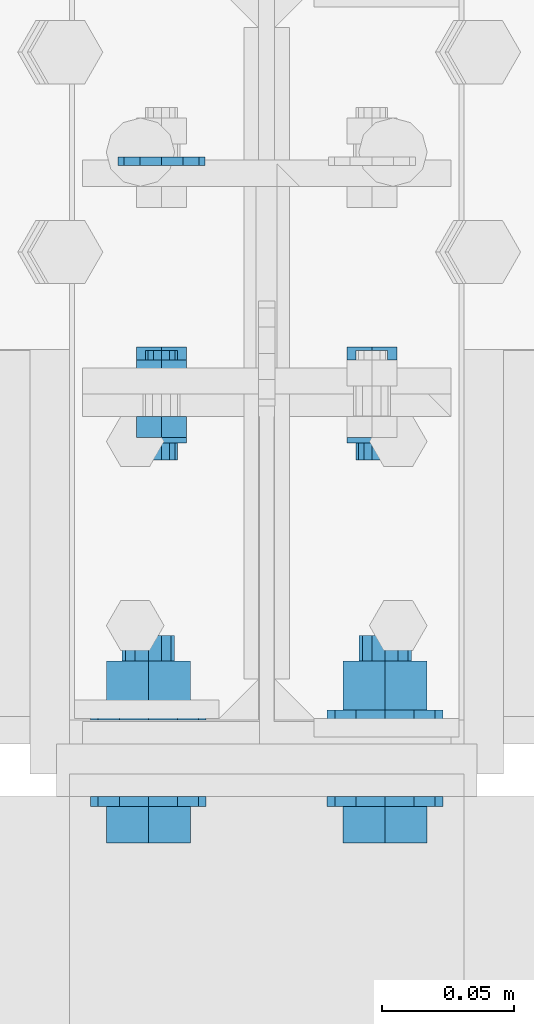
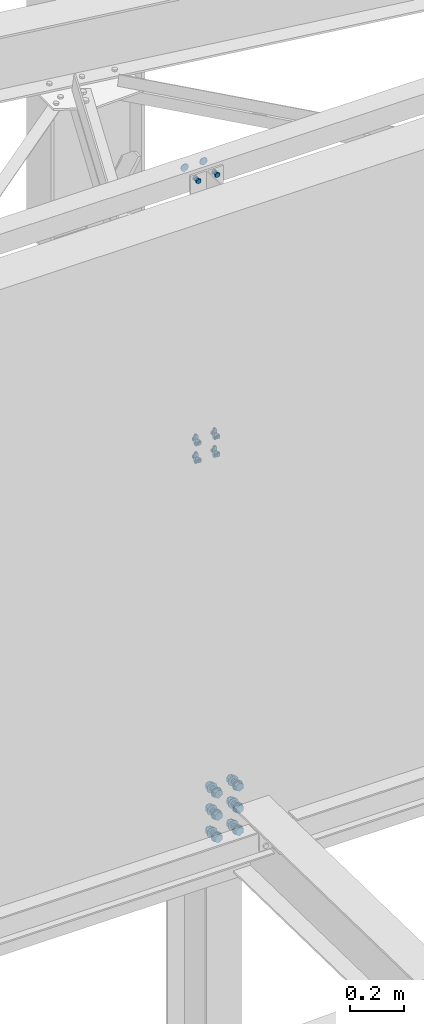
# One storey, part 27 of 3134: 4 mechanical fasteners, 3 elements without a shape of their own.
"""IFC2X3 building model written with IfcOpenShell, lengths in millimetres."""

import ifcopenshell
import ifcopenshell.guid

model = None  # the IFC model being written
_history = None  # IfcOwnerHistory: only IFC2X3 demands one
_inside = {}  # id of a spatial element -> (the spatial element, [elements in it])
_under = {}  # id of a project, library or spatial element -> (it, [spatial elements below it])
_declared = {}  # id of a project -> (the project, [libraries it declares])
_typed = {}  # id of a type object -> (the type object, [elements of that type])
_made_of = {}  # id of a material, layer set ... -> (it, [elements and type objects made of it])


def new_model(schema):
    """Start an empty IFC model of exactly this schema.

    Asked for "IFC4X3", IfcOpenShell would pick the latest addendum, in which some entities
    have other attributes; the version numbers below select the first issue.
    IFC2X3 requires an IfcOwnerHistory on every rooted entity: one is made here for all.
    """
    global model, _history
    if schema == "IFC4X3":
        model = ifcopenshell.file(schema_version=(4, 3, 0, 0))
    else:
        model = ifcopenshell.file(schema=schema)
    _inside.clear()
    _under.clear()
    _declared.clear()
    _typed.clear()
    _made_of.clear()
    _history = None
    if model.schema == "IFC2X3":
        org = make("IfcOrganization", Name="unknown")
        user = make(
            "IfcPersonAndOrganization",
            ThePerson=make("IfcPerson", FamilyName="unknown"),
            TheOrganization=org,
        )
        app = make(
            "IfcApplication",
            ApplicationDeveloper=org,
            Version="unknown",
            ApplicationFullName="unknown",
            ApplicationIdentifier="unknown",
        )
        _history = make(
            "IfcOwnerHistory",
            OwningUser=user,
            OwningApplication=app,
            ChangeAction="ADDED",
            CreationDate=0,
        )
    return model


def make(cls, **values):
    """One entity of the class cls with the attributes given. An attribute that is None is left unset."""
    return model.create_entity(
        cls, **{name: value for name, value in values.items() if value is not None}
    )


def rooted(cls, **values):
    """An entity with a GlobalId (a new one), such as an element, a storey or a relation."""
    return make(cls, GlobalId=ifcopenshell.guid.new(), OwnerHistory=_history, **values)


def si_unit(unit_type, name, prefix=None):
    """IfcSIUnit, for example si_unit("LENGTHUNIT", "METRE", prefix="MILLI")."""
    return make("IfcSIUnit", UnitType=unit_type, Prefix=prefix, Name=name)


def assignment(units):
    """IfcUnitAssignment: the units of a project."""
    return None if units is None else make("IfcUnitAssignment", Units=units)


def point(xyz):
    """IfcCartesianPoint."""
    return None if xyz is None else make("IfcCartesianPoint", Coordinates=xyz)


def direction(xyz):
    """IfcDirection."""
    return None if xyz is None else make("IfcDirection", DirectionRatios=xyz)


def frame(location, z_axis=None, x_axis=None):
    """IfcAxis2Placement3D, a coordinate frame: its origin and axes. An axis left out is left unset."""
    return make(
        "IfcAxis2Placement3D",
        Location=point(location),
        Axis=direction(z_axis),
        RefDirection=direction(x_axis),
    )


def origin_with_axes():
    """The frame at (0, 0, 0) with the z axis (0, 0, 1) and the x axis (1, 0, 0) written out."""
    return frame((0.0, 0.0, 0.0), z_axis=(0.0, 0.0, 1.0), x_axis=(1.0, 0.0, 0.0))


def place(relative_to, where):
    """IfcLocalPlacement: puts the frame where relative to a parent placement (None: the world)."""
    return make(
        "IfcLocalPlacement", PlacementRelTo=relative_to, RelativePlacement=where
    )


def context(
    kind, dimensions, precision=None, world=None, true_north=None, identifier=None
):
    """IfcGeometricRepresentationContext, for example the 3D "Model" context."""
    return make(
        "IfcGeometricRepresentationContext",
        ContextIdentifier=identifier,
        ContextType=kind,
        CoordinateSpaceDimension=dimensions,
        Precision=precision,
        WorldCoordinateSystem=world,
        TrueNorth=true_north,
    )


def subcontext(parent, identifier, kind, view, scale=None):
    """IfcGeometricRepresentationSubContext, for example "Body" below "Model"."""
    return make(
        "IfcGeometricRepresentationSubContext",
        ContextIdentifier=identifier,
        ContextType=kind,
        ParentContext=parent,
        TargetScale=scale,
        TargetView=view,
    )


def project(units=None, contexts=None):
    """IfcProject with its units and contexts."""
    return rooted(
        "IfcProject",
        Name="project",
        RepresentationContexts=contexts,
        UnitsInContext=assignment(units),
    )


def spatial(cls, under=None, at=None, **own):
    """A site, building, storey or space (cls), placed at a placement, below another one or the project."""
    s = rooted(cls, ObjectPlacement=at, **own)
    if under is not None:
        _under.setdefault(under.id(), (under, []))[1].append(s)
    return s


def faces_of(points, faces, orient=None, outer=None):
    """IfcFace entities. A face is a list of loops; a loop is a list of indices into points, from 0.

    orient and outer hold one flag for each loop. By default every Orientation is true, the
    first loop of a face is its IfcFaceOuterBound and the others are IfcFaceBound.
    """
    made = []
    for i, loops in enumerate(faces):
        bounds = []
        for j, loop in enumerate(loops):
            is_outer = j == 0 if outer is None else outer[i][j]
            bounds.append(
                make(
                    "IfcFaceOuterBound" if is_outer else "IfcFaceBound",
                    Bound=make("IfcPolyLoop", Polygon=[points[k] for k in loop]),
                    Orientation=True if orient is None else orient[i][j],
                )
            )
        made.append(make("IfcFace", Bounds=bounds))
    return made


def faceted_brep(points, faces, orient=None, outer=None, voids=None):
    """IfcFacetedBrep: a solid bounded by flat faces; with voids (closed shells), ...WithVoids."""
    shared = [point(p) for p in points]
    hull = make("IfcClosedShell", CfsFaces=faces_of(shared, faces, orient, outer))
    if voids is None:
        return make("IfcFacetedBrep", Outer=hull)
    return make(
        "IfcFacetedBrepWithVoids",
        Outer=hull,
        Voids=[
            make(cls, CfsFaces=faces_of(shared, fs, o, b)) for cls, fs, o, b in voids
        ],
    )


def shape(context_of_items, identifier, shape_type, items):
    """IfcShapeRepresentation: the items that make up one representation, for example the "Body"."""
    return make(
        "IfcShapeRepresentation",
        ContextOfItems=context_of_items,
        RepresentationIdentifier=identifier,
        RepresentationType=shape_type,
        Items=items,
    )


def source(mapping_origin, context_of_items, identifier, shape_type, items):
    """IfcRepresentationMap: a shape defined once, which mapped items show again and again."""
    return make(
        "IfcRepresentationMap",
        MappingOrigin=mapping_origin,
        MappedRepresentation=shape(context_of_items, identifier, shape_type, items),
    )


def transform(
    local_origin,
    x_axis=None,
    y_axis=None,
    z_axis=None,
    scale=None,
    scale2=None,
    scale3=None,
    uniform=True,
):
    """IfcCartesianTransformationOperator3D, or its non-uniform kind. x_axis, y_axis, z_axis: its Axis1, 2, 3."""
    if uniform:
        return make(
            "IfcCartesianTransformationOperator3D",
            Axis1=direction(x_axis),
            Axis2=direction(y_axis),
            LocalOrigin=point(local_origin),
            Scale=scale,
            Axis3=direction(z_axis),
        )
    return make(
        "IfcCartesianTransformationOperator3DnonUniform",
        Axis1=direction(x_axis),
        Axis2=direction(y_axis),
        LocalOrigin=point(local_origin),
        Scale=scale,
        Axis3=direction(z_axis),
        Scale2=scale2,
        Scale3=scale3,
    )


def mapped(mapping_source, mapping_target):
    """IfcMappedItem: shows the shape of a source again, moved by a transform."""
    return make(
        "IfcMappedItem", MappingSource=mapping_source, MappingTarget=mapping_target
    )


def material(Name=None, Category=None):
    """IfcMaterial."""
    return make("IfcMaterial", Name=Name, Category=Category)


def made_of(thing, what):
    """Note that an element or type object is made of a material, layer set ...; save() writes the relation."""
    if what is not None:
        _made_of.setdefault(what.id(), (what, []))[1].append(thing)
    return thing


def type_object(cls, material=None, **own):
    """A type object (cls), such as IfcWallType, which elements share."""
    return made_of(rooted(cls, **own), material)


def element(
    cls,
    number,
    at=None,
    inside=None,
    cuts=None,
    type_object=None,
    material=None,
    context=None,
    identifier="Body",
    shape_type=None,
    held_by="IfcProductDefinitionShape",
    body=None,
    shapes=None,
    **own,
):
    """One element of the class cls, such as IfcWall. Its Tag is "e" and its number.

    at: its placement. inside: the storey or other place that contains it. cuts: it is an
    opening in that element (IfcRelVoidsElement). A single representation is given by context,
    identifier, shape_type and body (its items); several are given by shapes. held_by: the class
    of the entity that holds the representations. save() writes the other relations.
    """
    e = rooted(cls, Tag="e%d" % number, ObjectPlacement=at, **own)
    if body is not None:
        shapes = [shape(context, identifier, shape_type, body)]
    if shapes is not None:
        e.Representation = make(held_by, Representations=shapes)
    if inside is not None:
        _inside.setdefault(inside.id(), (inside, []))[1].append(e)
    if cuts is not None:
        rooted(
            "IfcRelVoidsElement", RelatingBuildingElement=cuts, RelatedOpeningElement=e
        )
    if type_object is not None:
        _typed.setdefault(type_object.id(), (type_object, []))[1].append(e)
    return made_of(e, material)


def aggregate(whole, parts):
    """IfcRelAggregates: a whole, such as a stair, and the parts it consists of."""
    return rooted("IfcRelAggregates", RelatingObject=whole, RelatedObjects=parts)


def save(model, path):
    """Write the relations noted so far, then the file.

    IfcRelAggregates (storeys below a building ...), IfcRelContainedInSpatialStructure (elements
    in a storey), IfcRelDefinesByType, IfcRelAssociatesMaterial and IfcRelDeclares: one each for
    every whole, place, type object, material and project.
    """
    for whole, parts in _under.values():
        aggregate(whole, parts)
    for where, things in _inside.values():
        rooted(
            "IfcRelContainedInSpatialStructure",
            RelatedElements=things,
            RelatingStructure=where,
        )
    for kind, things in _typed.values():
        rooted("IfcRelDefinesByType", RelatedObjects=things, RelatingType=kind)
    for what, things in _made_of.values():
        rooted("IfcRelAssociatesMaterial", RelatedObjects=things, RelatingMaterial=what)
    for by, libraries in _declared.values():
        rooted("IfcRelDeclares", RelatingContext=by, RelatedDefinitions=libraries)
    model.write(path)


model = new_model("IFC2X3")

# Units and contexts
model_context = context("Model", 3, precision=1e-05, world=origin_with_axes())
body_context = subcontext(model_context, "Body", "Model", "MODEL_VIEW")
ifc_project = project(units=[si_unit("LENGTHUNIT", "METRE", prefix="MILLI"), si_unit("AREAUNIT", "SQUARE_METRE"), si_unit("VOLUMEUNIT", "CUBIC_METRE"), si_unit("MASSUNIT", "GRAM", prefix="KILO"), si_unit("TIMEUNIT", "SECOND"), si_unit("PLANEANGLEUNIT", "RADIAN"), si_unit("SOLIDANGLEUNIT", "STERADIAN"), si_unit("THERMODYNAMICTEMPERATUREUNIT", "DEGREE_CELSIUS"), si_unit("LUMINOUSINTENSITYUNIT", "LUMEN")], contexts=[model_context])

# Site, building, storey
site_placement = place(None, origin_with_axes())
site = spatial("IfcSite", under=ifc_project, at=site_placement, CompositionType="ELEMENT")
building_placement = place(site_placement, origin_with_axes())
building = spatial("IfcBuilding", under=site, at=building_placement, Name="Undefined", CompositionType="ELEMENT")
storey_placement = place(building_placement, origin_with_axes())
storey = spatial("IfcBuildingStorey", under=building, at=storey_placement, Name="Undefined", CompositionType="ELEMENT", Elevation=0.0)

# Assembly, mechanical fastener
assembly_1_placement = place(storey_placement, origin_with_axes())
assembly_1 = element("IfcElementAssembly", 1, at=assembly_1_placement, inside=storey, AssemblyPlace="NOTDEFINED", PredefinedType="RIGID_FRAME")
ifc_material_1 = material(Name="8.8")
mechanical_fastener_type = type_object("IfcMechanicalFastenerType", Name="Bolt assembly")
shared_shape_1 = source(origin_with_axes(), body_context, "Body", "Brep", [
    faceted_brep([(16.5, -3.0, 0.0), (14.289419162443, -3.0, 8.25000000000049), (8.24999999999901, -3.0, 14.2894191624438), (-1.70995436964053e-12, -3.0, 16.5), (-8.25000000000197, -3.0, 14.2894191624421), (-14.2894191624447, -3.0, 8.24999999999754), (-16.5, -3.0, -3.41990873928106e-12), (-14.2894191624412, -3.0, -8.25000000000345), (-8.24999999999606, -3.0, -14.2894191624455), (5.11154442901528e-12, -3.0, -16.5), (8.25000000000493, -3.0, -14.2894191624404), (14.2894191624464, -3.0, -8.24999999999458), (14.2894191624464, 0.1, -8.24999999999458), (8.25000000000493, 0.1, -14.2894191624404), (5.11154442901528e-12, 0.1, -16.5), (-8.24999999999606, 0.1, -14.2894191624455), (-14.2894191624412, 0.1, -8.25000000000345), (-16.5, 0.1, -3.41990873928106e-12), (-14.2894191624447, 0.1, 8.24999999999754), (-8.25000000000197, 0.1, 14.2894191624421), (-1.70995436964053e-12, 0.1, 16.5), (8.24999999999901, 0.1, 14.2894191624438), (14.289419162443, 0.1, 8.25000000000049), (16.5, 0.1, 0.0)], [[[0, 1, 2, 3, 4, 5, 6, 7, 8, 9, 10, 11]], [[12, 13, 14, 15, 16, 17, 18, 19, 20, 21, 22, 23]], [[0, 23, 22, 1]], [[1, 22, 21, 2]], [[2, 21, 20, 3]], [[3, 20, 19, 4]], [[4, 19, 18, 5]], [[5, 18, 17, 6]], [[6, 17, 16, 7]], [[7, 16, 15, 8]], [[8, 15, 14, 9]], [[9, 14, 13, 10]], [[10, 13, 12, 11]], [[11, 12, 23, 0]]]),
])
mechanical_fastener_1_placement = place(assembly_1_placement, frame((28633.0, -2.0, 5934.99639945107), z_axis=(-1.0, 0.0, 0.0), x_axis=(0.0, 0.0, 1.0)))
mechanical_fastener_1 = element("IfcMechanicalFastener", 2, at=mechanical_fastener_1_placement, type_object=mechanical_fastener_type, material=ifc_material_1, Name="Bolt assembly", NominalDiameter=30.0, NominalLength=3.0, context=body_context, shape_type="MappedRepresentation", body=[
    mapped(shared_shape_1, transform((0.0, 0.0, -40.0))),
    mapped(shared_shape_1, transform((0.0, 0.0, 40.0))),
])

assembly_2_placement = place(storey_placement, origin_with_axes())
assembly_2 = element("IfcElementAssembly", 3, at=assembly_2_placement, inside=storey, Name="300", AssemblyPlace="NOTDEFINED", PredefinedType="RIGID_FRAME")
ifc_material_2 = material(Name="HR10.9")
shared_shape_2 = source(origin_with_axes(), body_context, "Body", "Brep", [
    faceted_brep([(18.475208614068, -17.599999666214, 0.0), (9.23760430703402, -17.599999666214, 16.0), (-9.23760430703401, -17.599999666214, 16.0), (-18.475208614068, -17.599999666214, 2.2625605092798e-15), (-9.23760430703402, -17.599999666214, -16.0), (9.237604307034, -17.599999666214, -16.0), (9.237604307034, -3.70000004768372, -16.0), (-9.23760430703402, -3.70000004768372, -16.0), (-18.475208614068, -3.70000004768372, 2.2625605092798e-15), (-9.23760430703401, -3.70000004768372, 16.0), (9.23760430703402, -3.70000004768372, 16.0), (18.475208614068, -3.70000004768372, 0.0), (10.0, -3.70000004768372, 0.0), (8.66025403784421, -3.70000004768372, 5.0000000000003), (4.9999999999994, -3.70000004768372, 8.66025403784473), (-1.03633598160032e-12, -3.70000004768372, 10.0), (-5.00000000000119, -3.70000004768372, 8.6602540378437), (-8.66025403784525, -3.70000004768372, 4.99999999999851), (-10.0, -3.70000004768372, -2.07267196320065e-12), (-8.66025403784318, -3.70000004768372, -5.00000000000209), (-4.99999999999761, -3.70000004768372, -8.66025403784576), (3.09790571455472e-12, -3.70000004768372, -10.0), (5.00000000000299, -3.70000004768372, -8.66025403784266), (8.66025403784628, -3.70000004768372, -4.99999999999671), (8.66025403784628, 61.2999999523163, -4.99999999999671), (5.00000000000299, 61.2999999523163, -8.66025403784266), (3.09790571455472e-12, 61.2999999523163, -10.0), (-4.99999999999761, 61.2999999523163, -8.66025403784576), (-8.66025403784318, 61.2999999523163, -5.00000000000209), (-10.0, 61.2999999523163, -2.07267196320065e-12), (-8.66025403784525, 61.2999999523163, 4.99999999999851), (-5.00000000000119, 61.2999999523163, 8.6602540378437), (-1.03633598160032e-12, 61.2999999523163, 10.0), (4.9999999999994, 61.2999999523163, 8.66025403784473), (8.66025403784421, 61.2999999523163, 5.0000000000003), (10.0, 61.2999999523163, 0.0), (22.0, -3.70000004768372, 0.0), (19.0525588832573, -3.70000004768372, 11.0000000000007), (10.9999999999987, -3.70000004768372, 19.0525588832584), (-2.27993915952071e-12, -3.70000004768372, 22.0), (-11.0000000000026, -3.70000004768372, 19.0525588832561), (-19.0525588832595, -3.70000004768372, 10.9999999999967), (-22.0, -3.70000004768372, -4.55987831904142e-12), (-19.052558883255, -3.70000004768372, -11.0000000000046), (-10.9999999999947, -3.70000004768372, -19.0525588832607), (6.81539257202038e-12, -3.70000004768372, -22.0), (11.0000000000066, -3.70000004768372, -19.0525588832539), (19.0525588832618, -3.70000004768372, -10.9999999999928), (19.0525588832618, 0.0, -10.9999999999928), (11.0000000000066, 0.0, -19.0525588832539), (6.81539257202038e-12, 0.0, -22.0), (-10.9999999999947, 0.0, -19.0525588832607), (-19.052558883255, 0.0, -11.0000000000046), (-22.0, 0.0, -4.55987831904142e-12), (-19.0525588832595, 0.0, 10.9999999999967), (-11.0000000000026, 0.0, 19.0525588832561), (-2.27993915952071e-12, 0.0, 22.0), (10.9999999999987, 0.0, 19.0525588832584), (19.0525588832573, 0.0, 11.0000000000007), (22.0, 0.0, 0.0), (22.0, 29.1999998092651, 0.0), (19.0525588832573, 29.1999998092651, 11.0000000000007), (10.9999999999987, 29.1999998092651, 19.0525588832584), (-2.27993915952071e-12, 29.1999998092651, 22.0), (-11.0000000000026, 29.1999998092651, 19.0525588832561), (-19.0525588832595, 29.1999998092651, 10.9999999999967), (-22.0, 29.1999998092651, -4.55987831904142e-12), (-19.052558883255, 29.1999998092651, -11.0000000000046), (-10.9999999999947, 29.1999998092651, -19.0525588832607), (6.81539257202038e-12, 29.1999998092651, -22.0), (11.0000000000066, 29.1999998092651, -19.0525588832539), (19.0525588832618, 29.1999998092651, -10.9999999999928), (19.0525588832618, 32.8999998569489, -10.9999999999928), (11.0000000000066, 32.8999998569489, -19.0525588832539), (6.81539257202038e-12, 32.8999998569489, -22.0), (-10.9999999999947, 32.8999998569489, -19.0525588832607), (-19.052558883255, 32.8999998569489, -11.0000000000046), (-22.0, 32.8999998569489, -4.55987831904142e-12), (-19.0525588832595, 32.8999998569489, 10.9999999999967), (-11.0000000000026, 32.8999998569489, 19.0525588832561), (-2.27993915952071e-12, 32.8999998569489, 22.0), (10.9999999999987, 32.8999998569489, 19.0525588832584), (19.0525588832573, 32.8999998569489, 11.0000000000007), (22.0, 32.8999998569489, 0.0), (18.475208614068, 32.8999998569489, 0.0), (9.23760430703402, 32.8999998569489, 16.0), (-9.23760430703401, 32.8999998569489, 16.0), (-18.475208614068, 32.8999998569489, 2.2625605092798e-15), (-9.23760430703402, 32.8999998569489, -16.0), (9.237604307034, 32.8999998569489, -16.0), (9.237604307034, 51.4499990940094, -16.0), (-9.23760430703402, 51.4499990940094, -16.0), (-18.475208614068, 51.4499990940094, 2.2625605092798e-15), (-9.23760430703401, 51.4499990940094, 16.0), (9.23760430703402, 51.4499990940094, 16.0), (18.475208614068, 51.4499990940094, 0.0)], [[[0, 1, 2, 3, 4, 5]], [[6, 7, 8, 9, 10, 11]], [[0, 11, 10, 1]], [[1, 10, 9, 2]], [[2, 9, 8, 3]], [[3, 8, 7, 4]], [[4, 7, 6, 5]], [[5, 6, 11, 0]], [[12, 13, 14, 15, 16, 17, 18, 19, 20, 21, 22, 23]], [[24, 25, 26, 27, 28, 29, 30, 31, 32, 33, 34, 35]], [[12, 35, 34, 13]], [[13, 34, 33, 14]], [[14, 33, 32, 15]], [[15, 32, 31, 16]], [[16, 31, 30, 17]], [[17, 30, 29, 18]], [[18, 29, 28, 19]], [[19, 28, 27, 20]], [[20, 27, 26, 21]], [[21, 26, 25, 22]], [[22, 25, 24, 23]], [[23, 24, 35, 12]], [[36, 37, 38, 39, 40, 41, 42, 43, 44, 45, 46, 47]], [[48, 49, 50, 51, 52, 53, 54, 55, 56, 57, 58, 59]], [[36, 59, 58, 37]], [[37, 58, 57, 38]], [[38, 57, 56, 39]], [[39, 56, 55, 40]], [[40, 55, 54, 41]], [[41, 54, 53, 42]], [[42, 53, 52, 43]], [[43, 52, 51, 44]], [[44, 51, 50, 45]], [[45, 50, 49, 46]], [[46, 49, 48, 47]], [[47, 48, 59, 36]], [[60, 61, 62, 63, 64, 65, 66, 67, 68, 69, 70, 71]], [[72, 73, 74, 75, 76, 77, 78, 79, 80, 81, 82, 83]], [[60, 83, 82, 61]], [[61, 82, 81, 62]], [[62, 81, 80, 63]], [[63, 80, 79, 64]], [[64, 79, 78, 65]], [[65, 78, 77, 66]], [[66, 77, 76, 67]], [[67, 76, 75, 68]], [[68, 75, 74, 69]], [[69, 74, 73, 70]], [[70, 73, 72, 71]], [[71, 72, 83, 60]], [[84, 85, 86, 87, 88, 89]], [[90, 91, 92, 93, 94, 95]], [[84, 95, 94, 85]], [[85, 94, 93, 86]], [[86, 93, 92, 87]], [[87, 92, 91, 88]], [[88, 91, 90, 89]], [[89, 90, 95, 84]]]),
    faceted_brep([(11.0, 19.9, 0.0), (9.52627944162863, 19.9, 5.50000000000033), (5.49999999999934, 19.9, 9.5262794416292), (-1.13996957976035e-12, 19.9, 11.0), (-5.50000000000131, 19.9, 9.52627944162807), (-9.52627944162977, 19.9, 5.49999999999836), (-11.0, 19.9, -2.27993915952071e-12), (-9.5262794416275, 19.9, -5.5000000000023), (-5.49999999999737, 19.9, -9.52627944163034), (3.40769628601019e-12, 19.9, -11.0), (5.50000000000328, 19.9, -9.52627944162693), (9.52627944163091, 19.9, -5.49999999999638), (9.52627944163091, 29.1999998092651, -5.49999999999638), (5.50000000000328, 29.1999998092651, -9.52627944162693), (3.40769628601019e-12, 29.1999998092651, -11.0), (-5.49999999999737, 29.1999998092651, -9.52627944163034), (-9.5262794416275, 29.1999998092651, -5.5000000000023), (-11.0, 29.1999998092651, -2.27993915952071e-12), (-9.52627944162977, 29.1999998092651, 5.49999999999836), (-5.50000000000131, 29.1999998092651, 9.52627944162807), (-1.13996957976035e-12, 29.1999998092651, 11.0), (5.49999999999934, 29.1999998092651, 9.5262794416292), (9.52627944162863, 29.1999998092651, 5.50000000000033), (11.0, 29.1999998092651, 0.0), (11.0, 0.0999999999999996, 0.0), (9.52627944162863, 0.0999999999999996, 5.50000000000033), (5.49999999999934, 0.0999999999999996, 9.5262794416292), (-1.13996957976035e-12, 0.0999999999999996, 11.0), (-5.50000000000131, 0.0999999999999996, 9.52627944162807), (-9.52627944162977, 0.0999999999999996, 5.49999999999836), (-11.0, 0.0999999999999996, -2.27993915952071e-12), (-9.5262794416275, 0.0999999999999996, -5.5000000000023), (-5.49999999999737, 0.0999999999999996, -9.52627944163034), (3.40769628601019e-12, 0.0999999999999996, -11.0), (5.50000000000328, 0.0999999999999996, -9.52627944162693), (9.52627944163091, 0.0999999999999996, -5.49999999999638), (9.52627944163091, 20.1, -5.49999999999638), (5.50000000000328, 20.1, -9.52627944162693), (3.40769628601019e-12, 20.1, -11.0), (-5.49999999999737, 20.1, -9.52627944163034), (-9.5262794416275, 20.1, -5.5000000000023), (-11.0, 20.1, -2.27993915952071e-12), (-9.52627944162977, 20.1, 5.49999999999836), (-5.50000000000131, 20.1, 9.52627944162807), (-1.13996957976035e-12, 20.1, 11.0), (5.49999999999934, 20.1, 9.5262794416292), (9.52627944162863, 20.1, 5.50000000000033), (11.0, 20.1, 0.0)], [[[0, 1, 2, 3, 4, 5, 6, 7, 8, 9, 10, 11]], [[12, 13, 14, 15, 16, 17, 18, 19, 20, 21, 22, 23]], [[0, 23, 22, 1]], [[1, 22, 21, 2]], [[2, 21, 20, 3]], [[3, 20, 19, 4]], [[4, 19, 18, 5]], [[5, 18, 17, 6]], [[6, 17, 16, 7]], [[7, 16, 15, 8]], [[8, 15, 14, 9]], [[9, 14, 13, 10]], [[10, 13, 12, 11]], [[11, 12, 23, 0]], [[24, 25, 26, 27, 28, 29, 30, 31, 32, 33, 34, 35]], [[36, 37, 38, 39, 40, 41, 42, 43, 44, 45, 46, 47]], [[24, 47, 46, 25]], [[25, 46, 45, 26]], [[26, 45, 44, 27]], [[27, 44, 43, 28]], [[28, 43, 42, 29]], [[29, 42, 41, 30]], [[30, 41, 40, 31]], [[31, 40, 39, 32]], [[32, 39, 38, 33]], [[33, 38, 37, 34]], [[34, 37, 36, 35]], [[35, 36, 47, 24]]]),
])
mechanical_fastener_2_placement = place(assembly_2_placement, frame((28633.0, -245.0, 3270.85230476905), z_axis=(1.0, 0.0, 0.0), x_axis=(0.0, 0.0, -1.0)))
mechanical_fastener_2 = element("IfcMechanicalFastener", 4, at=mechanical_fastener_2_placement, type_object=mechanical_fastener_type, material=ifc_material_2, Name="Bolt assembly", NominalDiameter=20.0, NominalLength=65.0, context=body_context, shape_type="MappedRepresentation", body=[
    mapped(shared_shape_2, transform((0.0, 0.0, -45.0))),
    mapped(shared_shape_2, transform((100.0, 0.0, -45.0))),
    mapped(shared_shape_2, transform((200.0, 0.0, -45.0))),
    mapped(shared_shape_2, transform((0.0, 0.0, 45.0))),
    mapped(shared_shape_2, transform((100.0, 0.0, 45.0))),
    mapped(shared_shape_2, transform((200.0, 0.0, 45.0))),
])
aggregate(assembly_2, [mechanical_fastener_2])

assembly_3_placement = place(storey_placement, origin_with_axes())
assembly_3 = element("IfcElementAssembly", 5, at=assembly_3_placement, inside=storey, AssemblyPlace="NOTDEFINED", PredefinedType="RIGID_FRAME")
shared_shape_3 = source(origin_with_axes(), body_context, "Body", "Brep", [
    faceted_brep([(10.9696551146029, -18.0, 0.0), (5.48482755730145, -18.0, 9.5), (-5.48482755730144, -18.0, 9.5), (-10.9696551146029, -18.0, 1.34339530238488e-15), (-5.48482755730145, -18.0, -9.5), (5.48482755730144, -18.0, -9.50000000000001), (5.48482755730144, -10.0, -9.50000000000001), (-5.48482755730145, -10.0, -9.5), (-10.9696551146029, -10.0, 1.34339530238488e-15), (-5.48482755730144, -10.0, 9.5), (5.48482755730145, -10.0, 9.5), (10.9696551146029, -10.0, 0.0), (6.0, -10.0, 0.0), (5.19615242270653, -10.0, 3.00000000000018), (2.99999999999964, -10.0, 5.19615242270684), (-6.21801588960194e-13, -10.0, 6.0), (-3.00000000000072, -10.0, 5.19615242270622), (-5.19615242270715, -10.0, 2.9999999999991), (-6.0, -10.0, -1.24360317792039e-12), (-5.19615242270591, -10.0, -3.00000000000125), (-2.99999999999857, -10.0, -5.19615242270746), (1.85874342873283e-12, -10.0, -6.0), (3.00000000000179, -10.0, -5.1961524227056), (5.19615242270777, -10.0, -2.99999999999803), (5.19615242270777, 24.9999999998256, -2.99999999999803), (3.00000000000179, 24.9999999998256, -5.1961524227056), (1.85874342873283e-12, 24.9999999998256, -6.0), (-2.99999999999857, 24.9999999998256, -5.19615242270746), (-5.19615242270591, 24.9999999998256, -3.00000000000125), (-6.0, 24.9999999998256, -1.24360317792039e-12), (-5.19615242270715, 24.9999999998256, 2.9999999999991), (-3.00000000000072, 24.9999999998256, 5.19615242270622), (-6.21801588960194e-13, 24.9999999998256, 6.0), (2.99999999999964, 24.9999999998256, 5.19615242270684), (5.19615242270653, 24.9999999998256, 3.00000000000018), (6.0, 24.9999999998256, 0.0), (10.9696551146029, 8.5, 0.0), (5.48482755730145, 8.5, 9.5), (-5.48482755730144, 8.5, 9.5), (-10.9696551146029, 8.5, 1.34339530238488e-15), (-5.48482755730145, 8.5, -9.5), (5.48482755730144, 8.5, -9.50000000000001), (5.48482755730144, 18.5, -9.50000000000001), (-5.48482755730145, 18.5, -9.5), (-10.9696551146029, 18.5, 1.34339530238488e-15), (-5.48482755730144, 18.5, 9.5), (5.48482755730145, 18.5, 9.5), (10.9696551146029, 18.5, 0.0)], [[[0, 1, 2, 3, 4, 5]], [[6, 7, 8, 9, 10, 11]], [[0, 11, 10, 1]], [[1, 10, 9, 2]], [[2, 9, 8, 3]], [[3, 8, 7, 4]], [[4, 7, 6, 5]], [[5, 6, 11, 0]], [[12, 13, 14, 15, 16, 17, 18, 19, 20, 21, 22, 23]], [[24, 25, 26, 27, 28, 29, 30, 31, 32, 33, 34, 35]], [[12, 35, 34, 13]], [[13, 34, 33, 14]], [[14, 33, 32, 15]], [[15, 32, 31, 16]], [[16, 31, 30, 17]], [[17, 30, 29, 18]], [[18, 29, 28, 19]], [[19, 28, 27, 20]], [[20, 27, 26, 21]], [[21, 26, 25, 22]], [[22, 25, 24, 23]], [[23, 24, 35, 12]], [[36, 37, 38, 39, 40, 41]], [[42, 43, 44, 45, 46, 47]], [[36, 47, 46, 37]], [[37, 46, 45, 38]], [[38, 45, 44, 39]], [[39, 44, 43, 40]], [[40, 43, 42, 41]], [[41, 42, 47, 36]]]),
    faceted_brep([(7.0, -0.1, 0.0), (6.06217782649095, -0.1, 3.50000000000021), (3.49999999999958, -0.1, 6.06217782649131), (-7.25435187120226e-13, -0.1, 7.0), (-3.50000000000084, -0.1, 6.06217782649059), (-6.06217782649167, -0.1, 3.49999999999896), (-7.0, -0.1, -1.45087037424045e-12), (-6.06217782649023, -0.1, -3.50000000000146), (-3.49999999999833, -0.1, -6.06217782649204), (2.1685340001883e-12, -0.1, -7.0), (3.50000000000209, -0.1, -6.06217782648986), (6.0621778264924, -0.1, -3.4999999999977), (6.0621778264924, 8.5, -3.4999999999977), (3.50000000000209, 8.5, -6.06217782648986), (2.1685340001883e-12, 8.5, -7.0), (-3.49999999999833, 8.5, -6.06217782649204), (-6.06217782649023, 8.5, -3.50000000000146), (-7.0, 8.5, -1.45087037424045e-12), (-6.06217782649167, 8.5, 3.49999999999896), (-3.50000000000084, 8.5, 6.06217782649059), (-7.25435187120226e-13, 8.5, 7.0), (3.49999999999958, 8.5, 6.06217782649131), (6.06217782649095, 8.5, 3.50000000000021), (7.0, 8.5, 0.0), (26.0, -9.9, 0.0), (25.4671567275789, -9.9, 2.6787840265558), (23.9497474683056, -9.9, 4.94974746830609), (21.6787840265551, -9.9, 6.46715672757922), (-19.0000000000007, -9.9, 7.0), (-22.5000000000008, -9.9, 6.06217782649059), (-25.0621778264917, -9.9, 3.49999999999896), (-26.0, -9.9, -1.45087037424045e-12), (-25.0621778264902, -9.9, -3.50000000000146), (-22.4999999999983, -9.9, -6.06217782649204), (-18.9999999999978, -9.9, -7.0), (19.0000000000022, -9.9, -7.0), (22.5000000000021, -9.9, -6.06217782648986), (25.0621778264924, -9.9, -3.4999999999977), (26.0, 0.0999999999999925, 0.0), (25.0621778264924, 0.0999999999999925, -3.4999999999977), (22.5000000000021, 0.0999999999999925, -6.06217782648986), (19.0000000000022, 0.0999999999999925, -7.0), (-18.9999999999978, 0.0999999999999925, -7.0), (-22.4999999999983, 0.0999999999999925, -6.06217782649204), (-25.0621778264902, 0.0999999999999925, -3.50000000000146), (-26.0, 0.0999999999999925, -1.45087037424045e-12), (-25.0621778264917, 0.0999999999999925, 3.49999999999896), (-22.5000000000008, 0.0999999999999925, 6.06217782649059), (-19.0000000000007, 0.0999999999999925, 7.0), (21.6787840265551, 0.0999999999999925, 6.46715672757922), (23.9497474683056, 0.0999999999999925, 4.94974746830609), (25.4671567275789, 0.0999999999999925, 2.6787840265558)], [[[0, 1, 2, 3, 4, 5, 6, 7, 8, 9, 10, 11]], [[12, 13, 14, 15, 16, 17, 18, 19, 20, 21, 22, 23]], [[0, 23, 22, 1]], [[1, 22, 21, 2]], [[2, 21, 20, 3]], [[3, 20, 19, 4]], [[4, 19, 18, 5]], [[5, 18, 17, 6]], [[6, 17, 16, 7]], [[7, 16, 15, 8]], [[8, 15, 14, 9]], [[9, 14, 13, 10]], [[10, 13, 12, 11]], [[11, 12, 23, 0]], [[24, 25, 26, 27, 28, 29, 30, 31, 32, 33, 34, 35, 36, 37]], [[38, 39, 40, 41, 42, 43, 44, 45, 46, 47, 48, 49, 50, 51]], [[24, 38, 51, 25]], [[25, 51, 50, 26]], [[26, 50, 49, 27]], [[27, 49, 48, 28]], [[28, 48, 47, 29]], [[29, 47, 46, 30]], [[30, 46, 45, 31]], [[31, 45, 44, 32]], [[32, 44, 43, 33]], [[33, 43, 42, 34]], [[34, 42, 41, 35]], [[35, 41, 40, 36]], [[36, 40, 39, 37]], [[37, 39, 38, 24]]]),
])
mechanical_fastener_3_placement = place(assembly_3_placement, frame((28632.9999999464, -92.0, 4758.76642111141), z_axis=(-1.0, 0.0, 0.0), x_axis=(0.0, 0.0, -1.0)))
mechanical_fastener_3 = element("IfcMechanicalFastener", 6, at=mechanical_fastener_3_placement, type_object=mechanical_fastener_type, material=ifc_material_1, Name="Bolt assembly", NominalDiameter=12.0, NominalLength=35.0, context=body_context, shape_type="MappedRepresentation", body=[
    mapped(shared_shape_3, transform((0.0, 0.0, -40.0))),
    mapped(shared_shape_3, transform((80.0, 0.0, -40.0))),
    mapped(shared_shape_3, transform((0.0, 0.0, 40.0))),
    mapped(shared_shape_3, transform((80.0, 0.0, 40.0))),
])
aggregate(assembly_3, [mechanical_fastener_3])

# Mechanical fastener
shared_shape_4 = source(origin_with_axes(), body_context, "Body", "Brep", [
    faceted_brep([(10.9696551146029, -16.5, 0.0), (5.48482755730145, -16.5, 9.5), (-5.48482755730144, -16.5, 9.5), (-10.9696551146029, -16.5, 1.34339530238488e-15), (-5.48482755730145, -16.5, -9.5), (5.48482755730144, -16.5, -9.50000000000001), (5.48482755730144, -8.5, -9.50000000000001), (-5.48482755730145, -8.5, -9.5), (-10.9696551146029, -8.5, 1.34339530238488e-15), (-5.48482755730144, -8.5, 9.5), (5.48482755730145, -8.5, 9.5), (10.9696551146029, -8.5, 0.0), (6.0, -8.5, 0.0), (5.19615242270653, -8.5, 3.00000000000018), (2.99999999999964, -8.5, 5.19615242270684), (-6.21801588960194e-13, -8.5, 6.0), (-3.00000000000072, -8.5, 5.19615242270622), (-5.19615242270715, -8.5, 2.9999999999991), (-6.0, -8.5, -1.24360317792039e-12), (-5.19615242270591, -8.5, -3.00000000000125), (-2.99999999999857, -8.5, -5.19615242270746), (1.85874342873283e-12, -8.5, -6.0), (3.00000000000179, -8.5, -5.1961524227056), (5.19615242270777, -8.5, -2.99999999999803), (5.19615242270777, 16.5, -2.99999999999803), (3.00000000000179, 16.5, -5.1961524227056), (1.85874342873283e-12, 16.5, -6.0), (-2.99999999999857, 16.5, -5.19615242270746), (-5.19615242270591, 16.5, -3.00000000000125), (-6.0, 16.5, -1.24360317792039e-12), (-5.19615242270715, 16.5, 2.9999999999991), (-3.00000000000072, 16.5, 5.19615242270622), (-6.21801588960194e-13, 16.5, 6.0), (2.99999999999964, 16.5, 5.19615242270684), (5.19615242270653, 16.5, 3.00000000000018), (6.0, 16.5, 0.0), (10.9696551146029, 3.00000000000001, 0.0), (5.48482755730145, 3.00000000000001, 9.5), (-5.48482755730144, 3.00000000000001, 9.5), (-10.9696551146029, 3.00000000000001, 1.34339530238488e-15), (-5.48482755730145, 3.00000000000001, -9.5), (5.48482755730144, 3.00000000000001, -9.50000000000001), (5.48482755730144, 13.0, -9.50000000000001), (-5.48482755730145, 13.0, -9.5), (-10.9696551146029, 13.0, 1.34339530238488e-15), (-5.48482755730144, 13.0, 9.5), (5.48482755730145, 13.0, 9.5), (10.9696551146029, 13.0, 0.0)], [[[0, 1, 2, 3, 4, 5]], [[6, 7, 8, 9, 10, 11]], [[0, 11, 10, 1]], [[1, 10, 9, 2]], [[2, 9, 8, 3]], [[3, 8, 7, 4]], [[4, 7, 6, 5]], [[5, 6, 11, 0]], [[12, 13, 14, 15, 16, 17, 18, 19, 20, 21, 22, 23]], [[24, 25, 26, 27, 28, 29, 30, 31, 32, 33, 34, 35]], [[12, 35, 34, 13]], [[13, 34, 33, 14]], [[14, 33, 32, 15]], [[15, 32, 31, 16]], [[16, 31, 30, 17]], [[17, 30, 29, 18]], [[18, 29, 28, 19]], [[19, 28, 27, 20]], [[20, 27, 26, 21]], [[21, 26, 25, 22]], [[22, 25, 24, 23]], [[23, 24, 35, 12]], [[36, 37, 38, 39, 40, 41]], [[42, 43, 44, 45, 46, 47]], [[36, 47, 46, 37]], [[37, 46, 45, 38]], [[38, 45, 44, 39]], [[39, 44, 43, 40]], [[40, 43, 42, 41]], [[41, 42, 47, 36]]]),
    faceted_brep([(7.0, -8.4, 0.0), (6.06217782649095, -8.4, 3.50000000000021), (3.49999999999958, -8.4, 6.06217782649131), (-7.25435187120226e-13, -8.4, 7.0), (-3.50000000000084, -8.4, 6.06217782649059), (-6.06217782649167, -8.4, 3.49999999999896), (-7.0, -8.4, -1.45087037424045e-12), (-6.06217782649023, -8.4, -3.50000000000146), (-3.49999999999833, -8.4, -6.06217782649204), (2.1685340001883e-12, -8.4, -7.0), (3.50000000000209, -8.4, -6.06217782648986), (6.0621778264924, -8.4, -3.4999999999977), (6.0621778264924, 0.0999999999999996, -3.4999999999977), (3.50000000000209, 0.0999999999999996, -6.06217782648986), (2.1685340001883e-12, 0.0999999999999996, -7.0), (-3.49999999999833, 0.0999999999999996, -6.06217782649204), (-6.06217782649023, 0.0999999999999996, -3.50000000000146), (-7.0, 0.0999999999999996, -1.45087037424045e-12), (-6.06217782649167, 0.0999999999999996, 3.49999999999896), (-3.50000000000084, 0.0999999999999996, 6.06217782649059), (-7.25435187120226e-13, 0.0999999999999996, 7.0), (3.49999999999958, 0.0999999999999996, 6.06217782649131), (6.06217782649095, 0.0999999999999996, 3.50000000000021), (7.0, 0.0999999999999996, 0.0), (7.0, -0.1, 0.0), (6.06217782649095, -0.1, 3.50000000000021), (3.49999999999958, -0.1, 6.06217782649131), (-7.25435187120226e-13, -0.1, 7.0), (-3.50000000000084, -0.1, 6.06217782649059), (-6.06217782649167, -0.1, 3.49999999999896), (-7.0, -0.1, -1.45087037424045e-12), (-6.06217782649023, -0.1, -3.50000000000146), (-3.49999999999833, -0.1, -6.06217782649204), (2.1685340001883e-12, -0.1, -7.0), (3.50000000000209, -0.1, -6.06217782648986), (6.0621778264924, -0.1, -3.4999999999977), (6.0621778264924, 3.0, -3.4999999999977), (3.50000000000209, 3.0, -6.06217782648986), (2.1685340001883e-12, 3.0, -7.0), (-3.49999999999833, 3.0, -6.06217782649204), (-6.06217782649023, 3.0, -3.50000000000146), (-7.0, 3.0, -1.45087037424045e-12), (-6.06217782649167, 3.0, 3.49999999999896), (-3.50000000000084, 3.0, 6.06217782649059), (-7.25435187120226e-13, 3.0, 7.0), (3.49999999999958, 3.0, 6.06217782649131), (6.06217782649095, 3.0, 3.50000000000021), (7.0, 3.0, 0.0)], [[[0, 1, 2, 3, 4, 5, 6, 7, 8, 9, 10, 11]], [[12, 13, 14, 15, 16, 17, 18, 19, 20, 21, 22, 23]], [[0, 23, 22, 1]], [[1, 22, 21, 2]], [[2, 21, 20, 3]], [[3, 20, 19, 4]], [[4, 19, 18, 5]], [[5, 18, 17, 6]], [[6, 17, 16, 7]], [[7, 16, 15, 8]], [[8, 15, 14, 9]], [[9, 14, 13, 10]], [[10, 13, 12, 11]], [[11, 12, 23, 0]], [[24, 25, 26, 27, 28, 29, 30, 31, 32, 33, 34, 35]], [[36, 37, 38, 39, 40, 41, 42, 43, 44, 45, 46, 47]], [[24, 47, 46, 25]], [[25, 46, 45, 26]], [[26, 45, 44, 27]], [[27, 44, 43, 28]], [[28, 43, 42, 29]], [[29, 42, 41, 30]], [[30, 41, 40, 31]], [[31, 40, 39, 32]], [[32, 39, 38, 33]], [[33, 38, 37, 34]], [[34, 37, 36, 35]], [[35, 36, 47, 24]]]),
])
mechanical_fastener_4_placement = place(assembly_1_placement, frame((28633.0, -92.0, 5934.99639945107), z_axis=(-1.0, 0.0, 0.0), x_axis=(0.0, 0.0, 1.0)))
mechanical_fastener_4 = element("IfcMechanicalFastener", 7, at=mechanical_fastener_4_placement, type_object=mechanical_fastener_type, material=ifc_material_1, Name="Bolt assembly", NominalDiameter=12.0, NominalLength=25.0, context=body_context, shape_type="MappedRepresentation", body=[
    mapped(shared_shape_4, transform((0.0, 0.0, -40.0))),
    mapped(shared_shape_4, transform((0.0, 0.0, 40.0))),
])

aggregate(assembly_1, [mechanical_fastener_4, mechanical_fastener_1])

save(model, "model.ifc")
